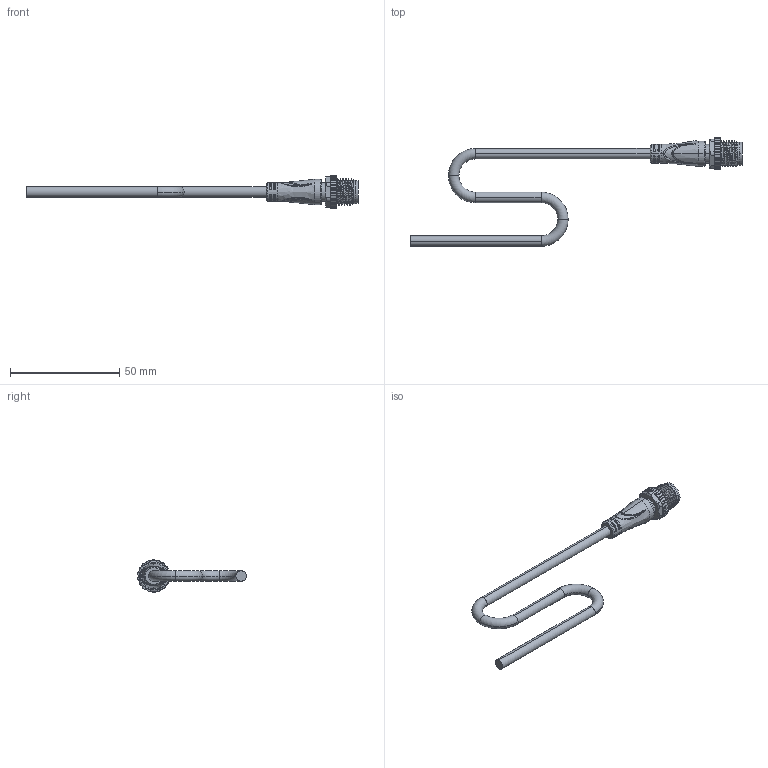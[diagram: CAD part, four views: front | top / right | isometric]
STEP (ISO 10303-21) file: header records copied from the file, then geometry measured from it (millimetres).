
FILE_DESCRIPTION (( 'STEP AP214' ), '1' );
FILE_NAME ('M12眻芛4P鼠傷.STEP', '2024-12-20T10:13:29', ( 'Windows User' ), ( 'P R C' ), 'SwSTEP 2.0', 'SolidWorks 2023', '' );
FILE_SCHEMA (( 'AUTOMOTIVE_DESIGN' ));
Length unit declared in the file: millimetre
Products named in the file (6): 导线_φ4.8; M12-0°包胶_M12-5P 直头; SD2008751-M12-4P公端插座-A0; M12直头4P公端; SD1705290-M12公端插针-A1; SD1100808-M12滚花螺栓（外螺纹对边13）-A0
Assembly tree (8 placements, depth 2):
  M12直头4P公端
    SD1100808-M12滚花螺栓（外螺纹对边13）-A0
    SD1705290-M12公端插针-A1  x4
    SD2008751-M12-4P公端插座-A0
    导线_φ4.8
    M12-0°包胶_M12-5P 直头
Bounding box: 152 x 49.76 x 14.8 mm (x, y, z)
Volume: 7611.5 mm3; surface area: 8123.7 mm2
Topology: 4 solids, 12 shells, 1257 faces, 3366 edges, 2142 vertices
Faces by surface type: plane 548, cylinder 427, cone 126, torus 75, bspline 69, sphere 12
Entity records: 31012 total; most frequent: CARTESIAN_POINT 13383, ORIENTED_EDGE 3822, DIRECTION 3558, EDGE_CURVE 1921, AXIS2_PLACEMENT_3D 1369, VERTEX_POINT 1230, VECTOR 820, LINE 820
